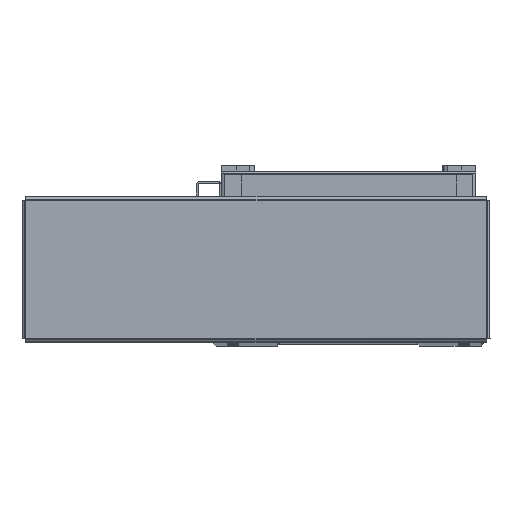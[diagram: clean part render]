
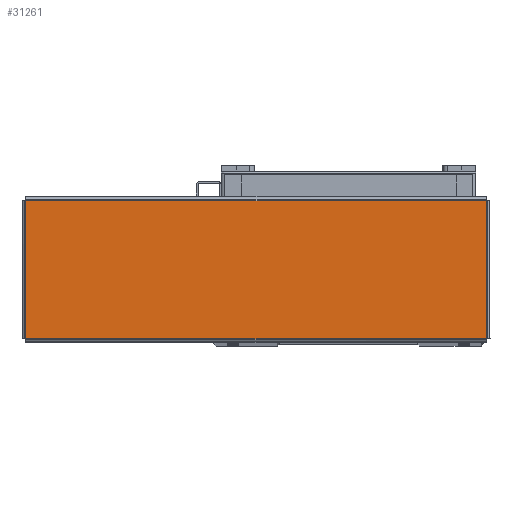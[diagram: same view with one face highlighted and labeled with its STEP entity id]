
A CAD part, top view. The second image highlights one B-rep face of the part: STEP entity #31261.
In plain terms, the highlighted planar face has unit normal (0, 0, 1) as drawn and (0, -1, 0) by its records, which use the part's own axes.
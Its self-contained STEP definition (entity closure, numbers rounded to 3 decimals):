
#1504 = FACE_OUTER_BOUND ( 'NONE', #11131, .T. ) ;
#5540 = EDGE_CURVE ( 'NONE', #34357, #34359, #23702, .T. ) ;
#5550 = EDGE_CURVE ( 'NONE', #34359, #34361, #23689, .T. ) ;
#5558 = EDGE_CURVE ( 'NONE', #34361, #34325, #23732, .T. ) ;
#5566 = EDGE_CURVE ( 'NONE', #34325, #34357, #23674, .T. ) ;
#7762 = CARTESIAN_POINT ( 'NONE',  ( 139.263, -1.5, -41.793 ) ) ;
#7763 = DIRECTION ( 'NONE',  ( 0., 0., 1. ) ) ;
#7793 = CARTESIAN_POINT ( 'NONE',  ( 139.293, -1.5, 41.763 ) ) ;
#7796 = DIRECTION ( 'NONE',  ( -1., 0., 0. ) ) ;
#7848 = CARTESIAN_POINT ( 'NONE',  ( -139.263, -1.5, 41.793 ) ) ;
#7868 = DIRECTION ( 'NONE',  ( 0., 0., -1. ) ) ;
#8677 = CARTESIAN_POINT ( 'NONE',  ( -139.293, -1.5, -41.763 ) ) ;
#8689 = DIRECTION ( 'NONE',  ( 1., 0., 0. ) ) ;
#11131 = EDGE_LOOP ( 'NONE', ( #42162, #42063, #42064, #42151 ) ) ;
#23669 = VECTOR ( 'NONE', #7796, 1000. ) ;
#23674 = LINE ( 'NONE', #7848, #23678 ) ;
#23678 = VECTOR ( 'NONE', #7868, 1000. ) ;
#23689 = LINE ( 'NONE', #7762, #23706 ) ;
#23692 = VECTOR ( 'NONE', #8689, 1000. ) ;
#23702 = LINE ( 'NONE', #8677, #23692 ) ;
#23706 = VECTOR ( 'NONE', #7763, 1000. ) ;
#23732 = LINE ( 'NONE', #7793, #23669 ) ;
#26113 = CARTESIAN_POINT ( 'NONE',  ( 0., -1.5, 0. ) ) ;
#26131 = DIRECTION ( 'NONE',  ( 0., 1., 0. ) ) ;
#26169 = PLANE ( 'NONE',  #30049 ) ;
#26171 = DIRECTION ( 'NONE',  ( 0., 0., 1. ) ) ;
#30049 = AXIS2_PLACEMENT_3D ( 'NONE', #26113, #26131, #26171 ) ;
#31261 = ADVANCED_FACE ( 'NONE', ( #1504 ), #26169, .F. ) ;
#34325 = VERTEX_POINT ( 'NONE', #49422 ) ;
#34357 = VERTEX_POINT ( 'NONE', #49385 ) ;
#34359 = VERTEX_POINT ( 'NONE', #49390 ) ;
#34361 = VERTEX_POINT ( 'NONE', #49389 ) ;
#42063 = ORIENTED_EDGE ( 'NONE', *, *, #5558, .T. ) ;
#42064 = ORIENTED_EDGE ( 'NONE', *, *, #5566, .T. ) ;
#42151 = ORIENTED_EDGE ( 'NONE', *, *, #5540, .T. ) ;
#42162 = ORIENTED_EDGE ( 'NONE', *, *, #5550, .T. ) ;
#49385 = CARTESIAN_POINT ( 'NONE',  ( -139.263, -1.5, -41.763 ) ) ;
#49389 = CARTESIAN_POINT ( 'NONE',  ( 139.263, -1.5, 41.763 ) ) ;
#49390 = CARTESIAN_POINT ( 'NONE',  ( 139.263, -1.5, -41.763 ) ) ;
#49422 = CARTESIAN_POINT ( 'NONE',  ( -139.263, -1.5, 41.763 ) ) ;
